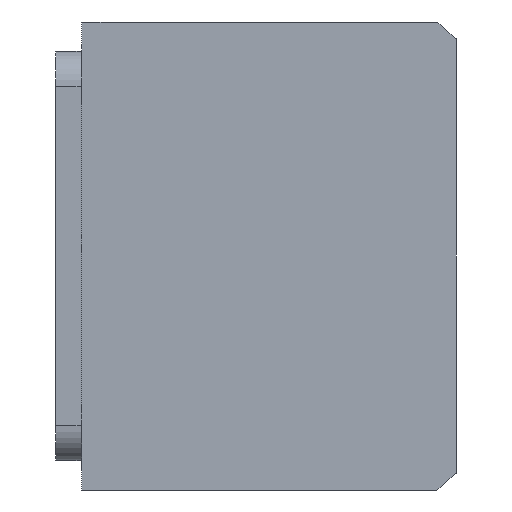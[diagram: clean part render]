
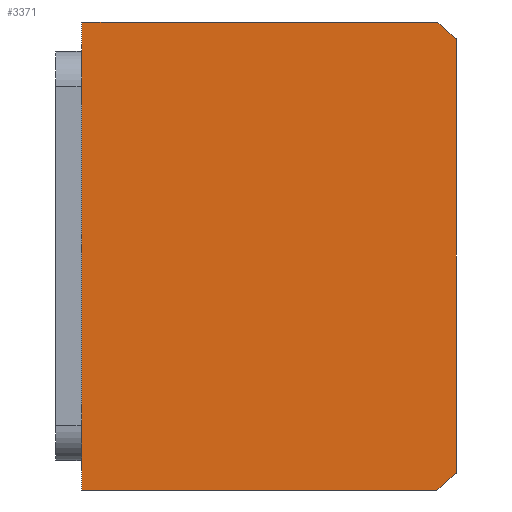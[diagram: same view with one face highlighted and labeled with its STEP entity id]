
A CAD part, front view. The second image highlights one B-rep face of the part: STEP entity #3371.
In plain terms, the highlighted planar face has unit normal (0, -1, 0).
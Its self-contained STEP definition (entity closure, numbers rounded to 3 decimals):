
#2634=FACE_OUTER_BOUND('',#4312,.T.);
#3371=ADVANCED_FACE('',(#2634),#3812,.F.);
#3812=PLANE('',#11329);
#4312=EDGE_LOOP('',(#6706,#6707,#6708,#6709,#6710,#6711));
#4831=LINE('',#13593,#5679);
#4855=LINE('',#13814,#5703);
#4865=LINE('',#13835,#5713);
#4881=LINE('',#13878,#5729);
#5679=VECTOR('',#11746,1.);
#5703=VECTOR('',#11842,1.);
#5713=VECTOR('',#11854,1.);
#5729=VECTOR('',#11888,1.);
#6706=ORIENTED_EDGE('',*,*,#10039,.F.);
#6707=ORIENTED_EDGE('',*,*,#10007,.F.);
#6708=ORIENTED_EDGE('',*,*,#10040,.F.);
#6709=ORIENTED_EDGE('',*,*,#9958,.F.);
#6710=ORIENTED_EDGE('',*,*,#10041,.F.);
#6711=ORIENTED_EDGE('',*,*,#10017,.F.);
#9084=VERTEX_POINT('',#13591);
#9086=VERTEX_POINT('',#13594);
#9133=VERTEX_POINT('',#13813);
#9134=VERTEX_POINT('',#13815);
#9142=VERTEX_POINT('',#13833);
#9144=VERTEX_POINT('',#13836);
#9958=EDGE_CURVE('',#9084,#9086,#4831,.T.);
#10007=EDGE_CURVE('',#9133,#9134,#4855,.T.);
#10017=EDGE_CURVE('',#9142,#9144,#4865,.T.);
#10039=EDGE_CURVE('',#9134,#9142,#11216,.T.);
#10040=EDGE_CURVE('',#9086,#9133,#4881,.T.);
#10041=EDGE_CURVE('',#9144,#9084,#11217,.T.);
#11216=CIRCLE('',#11327,51.);
#11217=CIRCLE('',#11328,51.);
#11327=AXIS2_PLACEMENT_3D('',#13877,#11886,#11887);
#11328=AXIS2_PLACEMENT_3D('',#13879,#11889,#11890);
#11329=AXIS2_PLACEMENT_3D('',#13880,#11891,#11892);
#11746=DIRECTION('',(-1.,0.,0.));
#11842=DIRECTION('',(1.,0.,0.));
#11854=DIRECTION('',(0.,0.,-1.));
#11886=DIRECTION('',(0.,1.,0.));
#11887=DIRECTION('',(0.,0.,-1.));
#11888=DIRECTION('',(0.,0.,1.));
#11889=DIRECTION('',(0.,1.,0.));
#11890=DIRECTION('',(0.,0.,-1.));
#11891=DIRECTION('',(0.,1.,0.));
#11892=DIRECTION('',(0.,0.,1.));
#13591=CARTESIAN_POINT('',(53.582,-83.606,-27.448));
#13593=CARTESIAN_POINT('',(-7.057,-83.606,-27.448));
#13594=CARTESIAN_POINT('',(-7.057,-83.606,-27.448));
#13813=CARTESIAN_POINT('',(-7.057,-83.606,52.552));
#13814=CARTESIAN_POINT('',(-7.057,-83.606,52.552));
#13815=CARTESIAN_POINT('',(53.582,-83.606,52.552));
#13833=CARTESIAN_POINT('',(56.943,-83.606,49.646));
#13835=CARTESIAN_POINT('',(56.943,-83.606,52.552));
#13836=CARTESIAN_POINT('',(56.943,-83.606,-24.543));
#13877=CARTESIAN_POINT('',(21.943,-83.606,12.552));
#13878=CARTESIAN_POINT('',(-7.057,-83.606,52.552));
#13879=CARTESIAN_POINT('',(21.943,-83.606,12.552));
#13880=CARTESIAN_POINT('',(24.943,-83.606,12.552));
